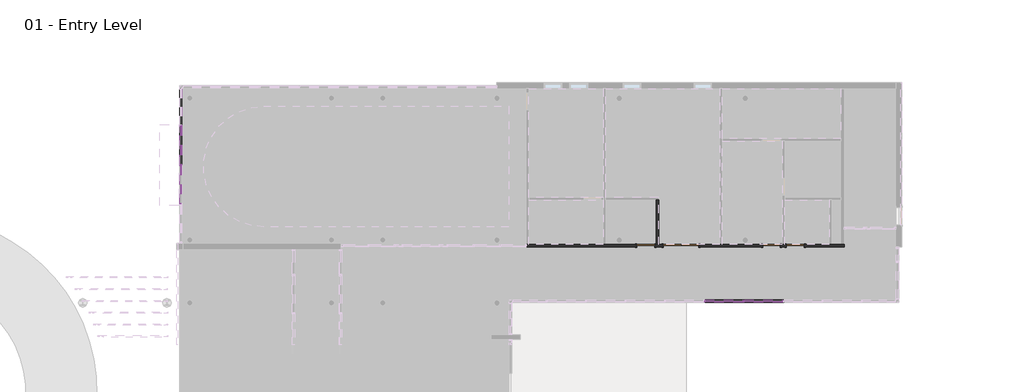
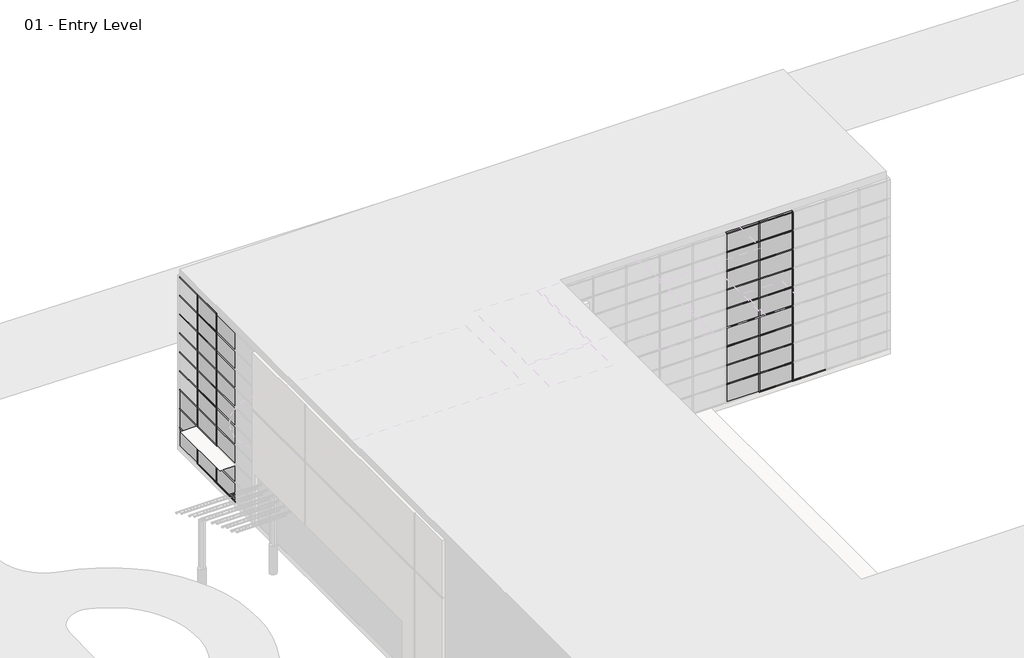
# One storey, part 27 of 34: 76 members, 39 plates, 4 doors, 2 walls.
"""IFC4 building model written with IfcOpenShell, lengths in millimetres."""

from ifc_helpers import new_model, si_unit, origin, origin_with_axes, place, context, project, spatial, polyline, outline, extrude, faceted_brep, transform, mapped, element, save
from components import door_aad9fa6e, door_a1797ceb, door_a3eb833a, member_2b49869a, member_391b434c, member_9e90ae50, member_bdc0ab2a, member_d73967ec, system_panel_glazed_1b9d6098, system_panel_glazed_70da479d, system_panel_glazed_16bdbcd7, system_panel_glazed_acb8865d, system_panel_solid_b376696c, system_panel_solid_77e8b053, system_panel_solid_f3cfc6ec

model = new_model("IFC4")

# Units and contexts
model_context = context("Model", 3, world=origin())
ifc_project = project(units=[si_unit("LENGTHUNIT", "METRE", prefix="MILLI")], contexts=[model_context])

# Site, building, storey
site = spatial("IfcSite", under=ifc_project)
building = spatial("IfcBuilding", under=site)
storey = spatial("IfcBuildingStorey", under=building, Name="01 - Entry Level", Elevation=0.0)

# Doors
placement = place(None, origin())
door_shape = door_aad9fa6e(model_context)
element("IfcDoor", 1, ObjectType="Double-Flush : 72\" x 84\"", at=placement, inside=storey, context=model_context, shape_type="MappedRepresentation", body=[
    mapped(door_shape, transform((25985.1207476, 45608.8, 0.0), x_axis=(-1.0, 0.0, 0.0), y_axis=(0.0, -1.0, 0.0), z_axis=(0.0, 0.0, 1.0))),
])
door_2_shape = door_a1797ceb(model_context)
element("IfcDoor", 2, ObjectType="Single-Flush : 36\" x 84\"", at=placement, inside=storey, context=model_context, shape_type="MappedRepresentation", body=[
    mapped(door_2_shape, transform((30646.0207476, 45608.8, 0.0), x_axis=(1.0, 0.0, 0.0), y_axis=(0.0, 1.0, 0.0), z_axis=(0.0, 0.0, 1.0))),
])
door_3_shape = door_a3eb833a(model_context)
element("IfcDoor", 3, ObjectType="Single-Flush : 36\" x 84\"", at=placement, inside=storey, context=model_context, shape_type="MappedRepresentation", body=[
    mapped(door_3_shape, transform((31865.2207476, 45608.8, 0.0), x_axis=(-1.0, 0.0, 0.0), y_axis=(0.0, -1.0, 0.0), z_axis=(0.0, 0.0, 1.0))),
])
element("IfcDoor", 4, ObjectType="Single-Flush : 36\" x 84\" 20 Minute Rated", at=placement, inside=storey, context=model_context, shape_type="MappedRepresentation", body=[
    mapped(door_2_shape, transform((24156.3207476, 45608.8, 0.0), x_axis=(1.0, 0.0, 0.0), y_axis=(0.0, 1.0, 0.0), z_axis=(0.0, 0.0, 1.0))),
])

# Members
member_shape = member_2b49869a(model_context)
element("IfcMember", 5, ObjectType="Rectangular Mullion : 2.5\" x 5\" rectangular", at=placement, inside=storey, context=model_context, shape_type="MappedRepresentation", body=[
    mapped(member_shape, transform((29198.2207476, 42751.3, 9753.6), x_axis=(1.0, 0.0, 0.0), y_axis=(0.0, -1.0, 0.0), z_axis=(0.0, 0.0, -1.0))),
])
element("IfcMember", 6, ObjectType="Rectangular Mullion : 2.5\" x 5\" rectangular", at=placement, inside=storey, context=model_context, shape_type="MappedRepresentation", body=[
    mapped(member_shape, transform((31230.2207476, 42751.3, 9753.6), x_axis=(1.0, 0.0, 0.0), y_axis=(0.0, -1.0, 0.0), z_axis=(0.0, 0.0, -1.0))),
])
element("IfcMember", 7, ObjectType="Rectangular Mullion : 2.5\" x 5\" rectangular", at=placement, inside=storey, context=model_context, shape_type="MappedRepresentation", body=[
    mapped(member_shape, transform((178.7207476, 51812.75, 9753.6), x_axis=(0.0, -1.0, 0.0), y_axis=(-1.0, 0.0, 0.0), z_axis=(0.0, 0.0, -1.0))),
])
element("IfcMember", 8, ObjectType="Rectangular Mullion : 2.5\" x 5\" rectangular", at=placement, inside=storey, context=model_context, shape_type="MappedRepresentation", body=[
    mapped(member_shape, transform((178.7207476, 49780.75, 9753.6), x_axis=(0.0, -1.0, 0.0), y_axis=(-1.0, 0.0, 0.0), z_axis=(0.0, 0.0, -1.0))),
])
member_2_shape = member_391b434c(model_context)
element("IfcMember", 9, ObjectType="Rectangular Mullion : 2.5\" x 5\" rectangular", at=placement, inside=storey, context=model_context, shape_type="MappedRepresentation", body=[
    mapped(member_2_shape, transform((29166.4707476, 42751.3, 10972.8), x_axis=(0.0, 0.0, 1.0), y_axis=(0.0, -1.0, 0.0), z_axis=(1.0, 0.0, 0.0))),
])
element("IfcMember", 10, ObjectType="Rectangular Mullion : 2.5\" x 5\" rectangular", at=placement, inside=storey, context=model_context, shape_type="MappedRepresentation", body=[
    mapped(member_2_shape, transform((31198.4707476, 42751.3, 10972.8), x_axis=(0.0, 0.0, 1.0), y_axis=(0.0, -1.0, 0.0), z_axis=(1.0, 0.0, 0.0))),
])
element("IfcMember", 11, ObjectType="Rectangular Mullion : 2.5\" x 5\" rectangular", at=placement, inside=storey, context=model_context, shape_type="MappedRepresentation", body=[
    mapped(member_2_shape, transform((178.7207476, 49812.5, 10972.8), x_axis=(0.0, 0.0, 1.0), y_axis=(-1.0, 0.0, 0.0), z_axis=(0.0, -1.0, 0.0))),
])
element("IfcMember", 12, ObjectType="Rectangular Mullion : 2.5\" x 5\" rectangular", at=placement, inside=storey, context=model_context, shape_type="MappedRepresentation", body=[
    mapped(member_2_shape, transform((29229.9707476, 42751.3, 0.0), x_axis=(0.0, 0.0, -1.0), y_axis=(0.0, -1.0, 0.0), z_axis=(-1.0, 0.0, 0.0))),
])
element("IfcMember", 13, ObjectType="Rectangular Mullion : 2.5\" x 5\" rectangular", at=placement, inside=storey, context=model_context, shape_type="MappedRepresentation", body=[
    mapped(member_2_shape, transform((31261.9707476, 42751.3, 0.0), x_axis=(0.0, 0.0, -1.0), y_axis=(0.0, -1.0, 0.0), z_axis=(-1.0, 0.0, 0.0))),
])
element("IfcMember", 14, ObjectType="Rectangular Mullion : 2.5\" x 5\" rectangular", at=placement, inside=storey, context=model_context, shape_type="MappedRepresentation", body=[
    mapped(member_2_shape, transform((178.7207476, 51781.0, 0.0), x_axis=(0.0, 0.0, -1.0), y_axis=(-1.0, 0.0, 0.0), z_axis=(0.0, 1.0, 0.0))),
])
element("IfcMember", 15, ObjectType="Rectangular Mullion : 2.5\" x 5\" rectangular", at=placement, inside=storey, context=model_context, shape_type="MappedRepresentation", body=[
    mapped(member_2_shape, transform((178.7207476, 49749.0, 0.0), x_axis=(0.0, 0.0, -1.0), y_axis=(-1.0, 0.0, 0.0), z_axis=(0.0, 1.0, 0.0))),
])
member_3_shape = member_9e90ae50(model_context)
element("IfcMember", 16, ObjectType="Rectangular Mullion : 2.5\" x 5\" rectangular", at=placement, inside=storey, context=model_context, shape_type="MappedRepresentation", body=[
    mapped(member_3_shape, transform((29166.4707476, 42751.3, 1219.2), x_axis=(0.0, 0.0, 1.0), y_axis=(0.0, -1.0, 0.0), z_axis=(1.0, 0.0, 0.0))),
])
element("IfcMember", 17, ObjectType="Rectangular Mullion : 2.5\" x 5\" rectangular", at=placement, inside=storey, context=model_context, shape_type="MappedRepresentation", body=[
    mapped(member_3_shape, transform((31198.4707476, 42751.3, 1219.2), x_axis=(0.0, 0.0, 1.0), y_axis=(0.0, -1.0, 0.0), z_axis=(1.0, 0.0, 0.0))),
])
element("IfcMember", 18, ObjectType="Rectangular Mullion : 2.5\" x 5\" rectangular", at=placement, inside=storey, context=model_context, shape_type="MappedRepresentation", body=[
    mapped(member_3_shape, transform((29166.4707476, 42751.3, 2438.4), x_axis=(0.0, 0.0, 1.0), y_axis=(0.0, -1.0, 0.0), z_axis=(1.0, 0.0, 0.0))),
])
element("IfcMember", 19, ObjectType="Rectangular Mullion : 2.5\" x 5\" rectangular", at=placement, inside=storey, context=model_context, shape_type="MappedRepresentation", body=[
    mapped(member_3_shape, transform((31198.4707476, 42751.3, 2438.4), x_axis=(0.0, 0.0, 1.0), y_axis=(0.0, -1.0, 0.0), z_axis=(1.0, 0.0, 0.0))),
])
element("IfcMember", 20, ObjectType="Rectangular Mullion : 2.5\" x 5\" rectangular", at=placement, inside=storey, context=model_context, shape_type="MappedRepresentation", body=[
    mapped(member_3_shape, transform((29166.4707476, 42751.3, 3657.6), x_axis=(0.0, 0.0, 1.0), y_axis=(0.0, -1.0, 0.0), z_axis=(1.0, 0.0, 0.0))),
])
element("IfcMember", 21, ObjectType="Rectangular Mullion : 2.5\" x 5\" rectangular", at=placement, inside=storey, context=model_context, shape_type="MappedRepresentation", body=[
    mapped(member_3_shape, transform((31198.4707476, 42751.3, 3657.6), x_axis=(0.0, 0.0, 1.0), y_axis=(0.0, -1.0, 0.0), z_axis=(1.0, 0.0, 0.0))),
])
element("IfcMember", 22, ObjectType="Rectangular Mullion : 2.5\" x 5\" rectangular", at=placement, inside=storey, context=model_context, shape_type="MappedRepresentation", body=[
    mapped(member_3_shape, transform((29166.4707476, 42751.3, 4876.8), x_axis=(0.0, 0.0, 1.0), y_axis=(0.0, -1.0, 0.0), z_axis=(1.0, 0.0, 0.0))),
])
element("IfcMember", 23, ObjectType="Rectangular Mullion : 2.5\" x 5\" rectangular", at=placement, inside=storey, context=model_context, shape_type="MappedRepresentation", body=[
    mapped(member_3_shape, transform((31198.4707476, 42751.3, 4876.8), x_axis=(0.0, 0.0, 1.0), y_axis=(0.0, -1.0, 0.0), z_axis=(1.0, 0.0, 0.0))),
])
element("IfcMember", 24, ObjectType="Rectangular Mullion : 2.5\" x 5\" rectangular", at=placement, inside=storey, context=model_context, shape_type="MappedRepresentation", body=[
    mapped(member_3_shape, transform((29166.4707476, 42751.3, 6096.0), x_axis=(0.0, 0.0, 1.0), y_axis=(0.0, -1.0, 0.0), z_axis=(1.0, 0.0, 0.0))),
])
element("IfcMember", 25, ObjectType="Rectangular Mullion : 2.5\" x 5\" rectangular", at=placement, inside=storey, context=model_context, shape_type="MappedRepresentation", body=[
    mapped(member_3_shape, transform((31198.4707476, 42751.3, 6096.0), x_axis=(0.0, 0.0, 1.0), y_axis=(0.0, -1.0, 0.0), z_axis=(1.0, 0.0, 0.0))),
])
element("IfcMember", 26, ObjectType="Rectangular Mullion : 2.5\" x 5\" rectangular", at=placement, inside=storey, context=model_context, shape_type="MappedRepresentation", body=[
    mapped(member_3_shape, transform((29166.4707476, 42751.3, 7315.2), x_axis=(0.0, 0.0, 1.0), y_axis=(0.0, -1.0, 0.0), z_axis=(1.0, 0.0, 0.0))),
])
element("IfcMember", 27, ObjectType="Rectangular Mullion : 2.5\" x 5\" rectangular", at=placement, inside=storey, context=model_context, shape_type="MappedRepresentation", body=[
    mapped(member_3_shape, transform((31198.4707476, 42751.3, 7315.2), x_axis=(0.0, 0.0, 1.0), y_axis=(0.0, -1.0, 0.0), z_axis=(1.0, 0.0, 0.0))),
])
element("IfcMember", 28, ObjectType="Rectangular Mullion : 2.5\" x 5\" rectangular", at=placement, inside=storey, context=model_context, shape_type="MappedRepresentation", body=[
    mapped(member_3_shape, transform((29166.4707476, 42751.3, 8534.4), x_axis=(0.0, 0.0, 1.0), y_axis=(0.0, -1.0, 0.0), z_axis=(1.0, 0.0, 0.0))),
])
element("IfcMember", 29, ObjectType="Rectangular Mullion : 2.5\" x 5\" rectangular", at=placement, inside=storey, context=model_context, shape_type="MappedRepresentation", body=[
    mapped(member_3_shape, transform((31198.4707476, 42751.3, 8534.4), x_axis=(0.0, 0.0, 1.0), y_axis=(0.0, -1.0, 0.0), z_axis=(1.0, 0.0, 0.0))),
])
element("IfcMember", 30, ObjectType="Rectangular Mullion : 2.5\" x 5\" rectangular", at=placement, inside=storey, context=model_context, shape_type="MappedRepresentation", body=[
    mapped(member_3_shape, transform((29166.4707476, 42751.3, 9753.6), x_axis=(0.0, 0.0, 1.0), y_axis=(0.0, -1.0, 0.0), z_axis=(1.0, 0.0, 0.0))),
])
element("IfcMember", 31, ObjectType="Rectangular Mullion : 2.5\" x 5\" rectangular", at=placement, inside=storey, context=model_context, shape_type="MappedRepresentation", body=[
    mapped(member_3_shape, transform((31198.4707476, 42751.3, 9753.6), x_axis=(0.0, 0.0, 1.0), y_axis=(0.0, -1.0, 0.0), z_axis=(1.0, 0.0, 0.0))),
])
element("IfcMember", 32, ObjectType="Rectangular Mullion : 2.5\" x 5\" rectangular", at=placement, inside=storey, context=model_context, shape_type="MappedRepresentation", body=[
    mapped(member_3_shape, transform((178.7207476, 49812.5, 1219.2), x_axis=(0.0, 0.0, 1.0), y_axis=(-1.0, 0.0, 0.0), z_axis=(0.0, -1.0, 0.0))),
])
element("IfcMember", 33, ObjectType="Rectangular Mullion : 2.5\" x 5\" rectangular", at=placement, inside=storey, context=model_context, shape_type="MappedRepresentation", body=[
    mapped(member_3_shape, transform((178.7207476, 49812.5, 2438.4), x_axis=(0.0, 0.0, 1.0), y_axis=(-1.0, 0.0, 0.0), z_axis=(0.0, -1.0, 0.0))),
])
element("IfcMember", 34, ObjectType="Rectangular Mullion : 2.5\" x 5\" rectangular", at=placement, inside=storey, context=model_context, shape_type="MappedRepresentation", body=[
    mapped(member_3_shape, transform((178.7207476, 49812.5, 3657.6), x_axis=(0.0, 0.0, 1.0), y_axis=(-1.0, 0.0, 0.0), z_axis=(0.0, -1.0, 0.0))),
])
element("IfcMember", 35, ObjectType="Rectangular Mullion : 2.5\" x 5\" rectangular", at=placement, inside=storey, context=model_context, shape_type="MappedRepresentation", body=[
    mapped(member_3_shape, transform((178.7207476, 49812.5, 4876.8), x_axis=(0.0, 0.0, 1.0), y_axis=(-1.0, 0.0, 0.0), z_axis=(0.0, -1.0, 0.0))),
])
element("IfcMember", 36, ObjectType="Rectangular Mullion : 2.5\" x 5\" rectangular", at=placement, inside=storey, context=model_context, shape_type="MappedRepresentation", body=[
    mapped(member_3_shape, transform((178.7207476, 49812.5, 6096.0), x_axis=(0.0, 0.0, 1.0), y_axis=(-1.0, 0.0, 0.0), z_axis=(0.0, -1.0, 0.0))),
])
element("IfcMember", 37, ObjectType="Rectangular Mullion : 2.5\" x 5\" rectangular", at=placement, inside=storey, context=model_context, shape_type="MappedRepresentation", body=[
    mapped(member_3_shape, transform((178.7207476, 49812.5, 7315.2), x_axis=(0.0, 0.0, 1.0), y_axis=(-1.0, 0.0, 0.0), z_axis=(0.0, -1.0, 0.0))),
])
element("IfcMember", 38, ObjectType="Rectangular Mullion : 2.5\" x 5\" rectangular", at=placement, inside=storey, context=model_context, shape_type="MappedRepresentation", body=[
    mapped(member_3_shape, transform((178.7207476, 49812.5, 8534.4), x_axis=(0.0, 0.0, 1.0), y_axis=(-1.0, 0.0, 0.0), z_axis=(0.0, -1.0, 0.0))),
])
element("IfcMember", 39, ObjectType="Rectangular Mullion : 2.5\" x 5\" rectangular", at=placement, inside=storey, context=model_context, shape_type="MappedRepresentation", body=[
    mapped(member_3_shape, transform((178.7207476, 49812.5, 9753.6), x_axis=(0.0, 0.0, 1.0), y_axis=(-1.0, 0.0, 0.0), z_axis=(0.0, -1.0, 0.0))),
])
element("IfcMember", 40, ObjectType="Rectangular Mullion : 2.5\" x 5\" rectangular", at=placement, inside=storey, context=model_context, shape_type="MappedRepresentation", body=[
    mapped(member_shape, transform((29198.2207476, 42751.3, 0.0), x_axis=(1.0, 0.0, 0.0), y_axis=(0.0, -1.0, 0.0), z_axis=(0.0, 0.0, -1.0))),
])
element("IfcMember", 41, ObjectType="Rectangular Mullion : 2.5\" x 5\" rectangular", at=placement, inside=storey, context=model_context, shape_type="MappedRepresentation", body=[
    mapped(member_shape, transform((31230.2207476, 42751.3, 0.0), x_axis=(1.0, 0.0, 0.0), y_axis=(0.0, -1.0, 0.0), z_axis=(0.0, 0.0, -1.0))),
])
element("IfcMember", 42, ObjectType="Rectangular Mullion : 2.5\" x 5\" rectangular", at=placement, inside=storey, context=model_context, shape_type="MappedRepresentation", body=[
    mapped(member_shape, transform((178.7207476, 51812.75, 0.0), x_axis=(0.0, -1.0, 0.0), y_axis=(-1.0, 0.0, 0.0), z_axis=(0.0, 0.0, -1.0))),
])
element("IfcMember", 43, ObjectType="Rectangular Mullion : 2.5\" x 5\" rectangular", at=placement, inside=storey, context=model_context, shape_type="MappedRepresentation", body=[
    mapped(member_shape, transform((178.7207476, 49780.75, 0.0), x_axis=(0.0, -1.0, 0.0), y_axis=(-1.0, 0.0, 0.0), z_axis=(0.0, 0.0, -1.0))),
])
element("IfcMember", 44, ObjectType="Rectangular Mullion : 2.5\" x 5\" rectangular", at=placement, inside=storey, context=model_context, shape_type="MappedRepresentation", body=[
    mapped(member_shape, transform((29198.2207476, 42751.3, 1219.2), x_axis=(1.0, 0.0, 0.0), y_axis=(0.0, -1.0, 0.0), z_axis=(0.0, 0.0, -1.0))),
])
element("IfcMember", 45, ObjectType="Rectangular Mullion : 2.5\" x 5\" rectangular", at=placement, inside=storey, context=model_context, shape_type="MappedRepresentation", body=[
    mapped(member_shape, transform((31230.2207476, 42751.3, 1219.2), x_axis=(1.0, 0.0, 0.0), y_axis=(0.0, -1.0, 0.0), z_axis=(0.0, 0.0, -1.0))),
])
element("IfcMember", 46, ObjectType="Rectangular Mullion : 2.5\" x 5\" rectangular", at=placement, inside=storey, context=model_context, shape_type="MappedRepresentation", body=[
    mapped(member_shape, transform((29198.2207476, 42751.3, 2438.4), x_axis=(1.0, 0.0, 0.0), y_axis=(0.0, -1.0, 0.0), z_axis=(0.0, 0.0, -1.0))),
])
element("IfcMember", 47, ObjectType="Rectangular Mullion : 2.5\" x 5\" rectangular", at=placement, inside=storey, context=model_context, shape_type="MappedRepresentation", body=[
    mapped(member_shape, transform((31230.2207476, 42751.3, 2438.4), x_axis=(1.0, 0.0, 0.0), y_axis=(0.0, -1.0, 0.0), z_axis=(0.0, 0.0, -1.0))),
])
element("IfcMember", 48, ObjectType="Rectangular Mullion : 2.5\" x 5\" rectangular", at=placement, inside=storey, context=model_context, shape_type="MappedRepresentation", body=[
    mapped(member_shape, transform((29198.2207476, 42751.3, 3657.6), x_axis=(1.0, 0.0, 0.0), y_axis=(0.0, -1.0, 0.0), z_axis=(0.0, 0.0, -1.0))),
])
element("IfcMember", 49, ObjectType="Rectangular Mullion : 2.5\" x 5\" rectangular", at=placement, inside=storey, context=model_context, shape_type="MappedRepresentation", body=[
    mapped(member_shape, transform((31230.2207476, 42751.3, 3657.6), x_axis=(1.0, 0.0, 0.0), y_axis=(0.0, -1.0, 0.0), z_axis=(0.0, 0.0, -1.0))),
])
element("IfcMember", 50, ObjectType="Rectangular Mullion : 2.5\" x 5\" rectangular", at=placement, inside=storey, context=model_context, shape_type="MappedRepresentation", body=[
    mapped(member_shape, transform((29198.2207476, 42751.3, 4876.8), x_axis=(1.0, 0.0, 0.0), y_axis=(0.0, -1.0, 0.0), z_axis=(0.0, 0.0, -1.0))),
])
element("IfcMember", 51, ObjectType="Rectangular Mullion : 2.5\" x 5\" rectangular", at=placement, inside=storey, context=model_context, shape_type="MappedRepresentation", body=[
    mapped(member_shape, transform((31230.2207476, 42751.3, 4876.8), x_axis=(1.0, 0.0, 0.0), y_axis=(0.0, -1.0, 0.0), z_axis=(0.0, 0.0, -1.0))),
])
element("IfcMember", 52, ObjectType="Rectangular Mullion : 2.5\" x 5\" rectangular", at=placement, inside=storey, context=model_context, shape_type="MappedRepresentation", body=[
    mapped(member_shape, transform((29198.2207476, 42751.3, 6096.0), x_axis=(1.0, 0.0, 0.0), y_axis=(0.0, -1.0, 0.0), z_axis=(0.0, 0.0, -1.0))),
])
element("IfcMember", 53, ObjectType="Rectangular Mullion : 2.5\" x 5\" rectangular", at=placement, inside=storey, context=model_context, shape_type="MappedRepresentation", body=[
    mapped(member_shape, transform((31230.2207476, 42751.3, 6096.0), x_axis=(1.0, 0.0, 0.0), y_axis=(0.0, -1.0, 0.0), z_axis=(0.0, 0.0, -1.0))),
])
element("IfcMember", 54, ObjectType="Rectangular Mullion : 2.5\" x 5\" rectangular", at=placement, inside=storey, context=model_context, shape_type="MappedRepresentation", body=[
    mapped(member_shape, transform((29198.2207476, 42751.3, 7315.2), x_axis=(1.0, 0.0, 0.0), y_axis=(0.0, -1.0, 0.0), z_axis=(0.0, 0.0, -1.0))),
])
element("IfcMember", 55, ObjectType="Rectangular Mullion : 2.5\" x 5\" rectangular", at=placement, inside=storey, context=model_context, shape_type="MappedRepresentation", body=[
    mapped(member_shape, transform((31230.2207476, 42751.3, 7315.2), x_axis=(1.0, 0.0, 0.0), y_axis=(0.0, -1.0, 0.0), z_axis=(0.0, 0.0, -1.0))),
])
element("IfcMember", 56, ObjectType="Rectangular Mullion : 2.5\" x 5\" rectangular", at=placement, inside=storey, context=model_context, shape_type="MappedRepresentation", body=[
    mapped(member_shape, transform((29198.2207476, 42751.3, 8534.4), x_axis=(1.0, 0.0, 0.0), y_axis=(0.0, -1.0, 0.0), z_axis=(0.0, 0.0, -1.0))),
])
element("IfcMember", 57, ObjectType="Rectangular Mullion : 2.5\" x 5\" rectangular", at=placement, inside=storey, context=model_context, shape_type="MappedRepresentation", body=[
    mapped(member_shape, transform((31230.2207476, 42751.3, 8534.4), x_axis=(1.0, 0.0, 0.0), y_axis=(0.0, -1.0, 0.0), z_axis=(0.0, 0.0, -1.0))),
])
element("IfcMember", 58, ObjectType="Rectangular Mullion : 2.5\" x 5\" rectangular", at=placement, inside=storey, context=model_context, shape_type="MappedRepresentation", body=[
    mapped(member_shape, transform((178.7207476, 51812.75, 1219.2), x_axis=(0.0, -1.0, 0.0), y_axis=(-1.0, 0.0, 0.0), z_axis=(0.0, 0.0, -1.0))),
])
element("IfcMember", 59, ObjectType="Rectangular Mullion : 2.5\" x 5\" rectangular", at=placement, inside=storey, context=model_context, shape_type="MappedRepresentation", body=[
    mapped(member_shape, transform((178.7207476, 49780.75, 1219.2), x_axis=(0.0, -1.0, 0.0), y_axis=(-1.0, 0.0, 0.0), z_axis=(0.0, 0.0, -1.0))),
])
element("IfcMember", 60, ObjectType="Rectangular Mullion : 2.5\" x 5\" rectangular", at=placement, inside=storey, context=model_context, shape_type="MappedRepresentation", body=[
    mapped(member_shape, transform((178.7207476, 51812.75, 2438.4), x_axis=(0.0, -1.0, 0.0), y_axis=(-1.0, 0.0, 0.0), z_axis=(0.0, 0.0, -1.0))),
])
element("IfcMember", 61, ObjectType="Rectangular Mullion : 2.5\" x 5\" rectangular", at=placement, inside=storey, context=model_context, shape_type="MappedRepresentation", body=[
    mapped(member_shape, transform((178.7207476, 49780.75, 2438.4), x_axis=(0.0, -1.0, 0.0), y_axis=(-1.0, 0.0, 0.0), z_axis=(0.0, 0.0, -1.0))),
])
element("IfcMember", 62, ObjectType="Rectangular Mullion : 2.5\" x 5\" rectangular", at=placement, inside=storey, context=model_context, shape_type="MappedRepresentation", body=[
    mapped(member_shape, transform((178.7207476, 51812.75, 3657.6), x_axis=(0.0, -1.0, 0.0), y_axis=(-1.0, 0.0, 0.0), z_axis=(0.0, 0.0, -1.0))),
])
element("IfcMember", 63, ObjectType="Rectangular Mullion : 2.5\" x 5\" rectangular", at=placement, inside=storey, context=model_context, shape_type="MappedRepresentation", body=[
    mapped(member_shape, transform((178.7207476, 49780.75, 3657.6), x_axis=(0.0, -1.0, 0.0), y_axis=(-1.0, 0.0, 0.0), z_axis=(0.0, 0.0, -1.0))),
])
element("IfcMember", 64, ObjectType="Rectangular Mullion : 2.5\" x 5\" rectangular", at=placement, inside=storey, context=model_context, shape_type="MappedRepresentation", body=[
    mapped(member_shape, transform((178.7207476, 51812.75, 4876.8), x_axis=(0.0, -1.0, 0.0), y_axis=(-1.0, 0.0, 0.0), z_axis=(0.0, 0.0, -1.0))),
])
element("IfcMember", 65, ObjectType="Rectangular Mullion : 2.5\" x 5\" rectangular", at=placement, inside=storey, context=model_context, shape_type="MappedRepresentation", body=[
    mapped(member_shape, transform((178.7207476, 49780.75, 4876.8), x_axis=(0.0, -1.0, 0.0), y_axis=(-1.0, 0.0, 0.0), z_axis=(0.0, 0.0, -1.0))),
])
element("IfcMember", 66, ObjectType="Rectangular Mullion : 2.5\" x 5\" rectangular", at=placement, inside=storey, context=model_context, shape_type="MappedRepresentation", body=[
    mapped(member_shape, transform((178.7207476, 51812.75, 6096.0), x_axis=(0.0, -1.0, 0.0), y_axis=(-1.0, 0.0, 0.0), z_axis=(0.0, 0.0, -1.0))),
])
element("IfcMember", 67, ObjectType="Rectangular Mullion : 2.5\" x 5\" rectangular", at=placement, inside=storey, context=model_context, shape_type="MappedRepresentation", body=[
    mapped(member_shape, transform((178.7207476, 49780.75, 6096.0), x_axis=(0.0, -1.0, 0.0), y_axis=(-1.0, 0.0, 0.0), z_axis=(0.0, 0.0, -1.0))),
])
element("IfcMember", 68, ObjectType="Rectangular Mullion : 2.5\" x 5\" rectangular", at=placement, inside=storey, context=model_context, shape_type="MappedRepresentation", body=[
    mapped(member_shape, transform((178.7207476, 51812.75, 7315.2), x_axis=(0.0, -1.0, 0.0), y_axis=(-1.0, 0.0, 0.0), z_axis=(0.0, 0.0, -1.0))),
])
element("IfcMember", 69, ObjectType="Rectangular Mullion : 2.5\" x 5\" rectangular", at=placement, inside=storey, context=model_context, shape_type="MappedRepresentation", body=[
    mapped(member_shape, transform((178.7207476, 49780.75, 7315.2), x_axis=(0.0, -1.0, 0.0), y_axis=(-1.0, 0.0, 0.0), z_axis=(0.0, 0.0, -1.0))),
])
element("IfcMember", 70, ObjectType="Rectangular Mullion : 2.5\" x 5\" rectangular", at=placement, inside=storey, context=model_context, shape_type="MappedRepresentation", body=[
    mapped(member_shape, transform((178.7207476, 51812.75, 8534.4), x_axis=(0.0, -1.0, 0.0), y_axis=(-1.0, 0.0, 0.0), z_axis=(0.0, 0.0, -1.0))),
])
element("IfcMember", 71, ObjectType="Rectangular Mullion : 2.5\" x 5\" rectangular", at=placement, inside=storey, context=model_context, shape_type="MappedRepresentation", body=[
    mapped(member_shape, transform((178.7207476, 49780.75, 8534.4), x_axis=(0.0, -1.0, 0.0), y_axis=(-1.0, 0.0, 0.0), z_axis=(0.0, 0.0, -1.0))),
])
member_4_shape = member_bdc0ab2a(model_context)
element("IfcMember", 72, ObjectType="Rectangular Mullion : 2.5\" x 5\" rectangular", at=placement, inside=storey, context=model_context, shape_type="MappedRepresentation", body=[
    mapped(member_4_shape, transform((178.7207476, 51844.5, 10972.8), x_axis=(0.0, 0.0, 1.0), y_axis=(-1.0, 0.0, 0.0), z_axis=(0.0, -1.0, 0.0))),
])
member_5_shape = member_d73967ec(model_context)
element("IfcMember", 73, ObjectType="Rectangular Mullion : 2.5\" x 5\" rectangular", at=placement, inside=storey, context=model_context, shape_type="MappedRepresentation", body=[
    mapped(member_5_shape, transform((178.7207476, 51844.5, 1219.2), x_axis=(0.0, 0.0, 1.0), y_axis=(-1.0, 0.0, 0.0), z_axis=(0.0, -1.0, 0.0))),
])
element("IfcMember", 74, ObjectType="Rectangular Mullion : 2.5\" x 5\" rectangular", at=placement, inside=storey, context=model_context, shape_type="MappedRepresentation", body=[
    mapped(member_5_shape, transform((178.7207476, 51844.5, 2438.4), x_axis=(0.0, 0.0, 1.0), y_axis=(-1.0, 0.0, 0.0), z_axis=(0.0, -1.0, 0.0))),
])
element("IfcMember", 75, ObjectType="Rectangular Mullion : 2.5\" x 5\" rectangular", at=placement, inside=storey, context=model_context, shape_type="MappedRepresentation", body=[
    mapped(member_5_shape, transform((178.7207476, 51844.5, 3657.6), x_axis=(0.0, 0.0, 1.0), y_axis=(-1.0, 0.0, 0.0), z_axis=(0.0, -1.0, 0.0))),
])
element("IfcMember", 76, ObjectType="Rectangular Mullion : 2.5\" x 5\" rectangular", at=placement, inside=storey, context=model_context, shape_type="MappedRepresentation", body=[
    mapped(member_5_shape, transform((178.7207476, 51844.5, 4876.8), x_axis=(0.0, 0.0, 1.0), y_axis=(-1.0, 0.0, 0.0), z_axis=(0.0, -1.0, 0.0))),
])
element("IfcMember", 77, ObjectType="Rectangular Mullion : 2.5\" x 5\" rectangular", at=placement, inside=storey, context=model_context, shape_type="MappedRepresentation", body=[
    mapped(member_5_shape, transform((178.7207476, 51844.5, 6096.0), x_axis=(0.0, 0.0, 1.0), y_axis=(-1.0, 0.0, 0.0), z_axis=(0.0, -1.0, 0.0))),
])
element("IfcMember", 78, ObjectType="Rectangular Mullion : 2.5\" x 5\" rectangular", at=placement, inside=storey, context=model_context, shape_type="MappedRepresentation", body=[
    mapped(member_5_shape, transform((178.7207476, 51844.5, 7315.2), x_axis=(0.0, 0.0, 1.0), y_axis=(-1.0, 0.0, 0.0), z_axis=(0.0, -1.0, 0.0))),
])
element("IfcMember", 79, ObjectType="Rectangular Mullion : 2.5\" x 5\" rectangular", at=placement, inside=storey, context=model_context, shape_type="MappedRepresentation", body=[
    mapped(member_5_shape, transform((178.7207476, 51844.5, 8534.4), x_axis=(0.0, 0.0, 1.0), y_axis=(-1.0, 0.0, 0.0), z_axis=(0.0, -1.0, 0.0))),
])
element("IfcMember", 80, ObjectType="Rectangular Mullion : 2.5\" x 5\" rectangular", at=placement, inside=storey, context=model_context, shape_type="MappedRepresentation", body=[
    mapped(member_5_shape, transform((178.7207476, 51844.5, 9753.6), x_axis=(0.0, 0.0, 1.0), y_axis=(-1.0, 0.0, 0.0), z_axis=(0.0, -1.0, 0.0))),
])

# Plates
system_panel_glazed_shape = system_panel_glazed_1b9d6098(model_context)
element("IfcPlate", 81, ObjectType="System Panel : Glazed", at=placement, inside=storey, context=model_context, shape_type="MappedRepresentation", body=[
    mapped(system_panel_glazed_shape, transform((28182.2207476, 42751.3, 63.5), x_axis=(1.0, 0.0, 0.0), y_axis=(0.0, 1.0, 0.0), z_axis=(0.0, 0.0, 1.0))),
])
element("IfcPlate", 82, ObjectType="System Panel : Glazed", at=placement, inside=storey, context=model_context, shape_type="MappedRepresentation", body=[
    mapped(system_panel_glazed_shape, transform((30214.2207476, 42751.3, 63.5), x_axis=(1.0, 0.0, 0.0), y_axis=(0.0, 1.0, 0.0), z_axis=(0.0, 0.0, 1.0))),
])
element("IfcPlate", 83, ObjectType="System Panel : Glazed", at=placement, inside=storey, context=model_context, shape_type="MappedRepresentation", body=[
    mapped(system_panel_glazed_shape, transform((28182.2207476, 42751.3, 9785.35), x_axis=(1.0, 0.0, 0.0), y_axis=(0.0, 1.0, 0.0), z_axis=(0.0, 0.0, 1.0))),
])
element("IfcPlate", 84, ObjectType="System Panel : Glazed", at=placement, inside=storey, context=model_context, shape_type="MappedRepresentation", body=[
    mapped(system_panel_glazed_shape, transform((30214.2207476, 42751.3, 9785.35), x_axis=(1.0, 0.0, 0.0), y_axis=(0.0, 1.0, 0.0), z_axis=(0.0, 0.0, 1.0))),
])
element("IfcPlate", 85, ObjectType="System Panel : Glazed", at=placement, inside=storey, context=model_context, shape_type="MappedRepresentation", body=[
    mapped(system_panel_glazed_shape, transform((178.7207476, 50796.75, 63.5), x_axis=(0.0, -1.0, 0.0), y_axis=(1.0, 0.0, 0.0), z_axis=(0.0, 0.0, 1.0))),
])
element("IfcPlate", 86, ObjectType="System Panel : Glazed", at=placement, inside=storey, context=model_context, shape_type="MappedRepresentation", body=[
    mapped(system_panel_glazed_shape, transform((178.7207476, 48764.75, 63.5), x_axis=(0.0, -1.0, 0.0), y_axis=(1.0, 0.0, 0.0), z_axis=(0.0, 0.0, 1.0))),
])
system_panel_glazed_2_shape = system_panel_glazed_70da479d(model_context)
element("IfcPlate", 87, ObjectType="System Panel : Glazed", at=placement, inside=storey, context=model_context, shape_type="MappedRepresentation", body=[
    mapped(system_panel_glazed_2_shape, transform((28182.2207476, 42751.3, 1250.95), x_axis=(1.0, 0.0, 0.0), y_axis=(0.0, 1.0, 0.0), z_axis=(0.0, 0.0, 1.0))),
])
element("IfcPlate", 88, ObjectType="System Panel : Glazed", at=placement, inside=storey, context=model_context, shape_type="MappedRepresentation", body=[
    mapped(system_panel_glazed_2_shape, transform((30214.2207476, 42751.3, 1250.95), x_axis=(1.0, 0.0, 0.0), y_axis=(0.0, 1.0, 0.0), z_axis=(0.0, 0.0, 1.0))),
])
element("IfcPlate", 89, ObjectType="System Panel : Glazed", at=placement, inside=storey, context=model_context, shape_type="MappedRepresentation", body=[
    mapped(system_panel_glazed_2_shape, transform((28182.2207476, 42751.3, 2470.15), x_axis=(1.0, 0.0, 0.0), y_axis=(0.0, 1.0, 0.0), z_axis=(0.0, 0.0, 1.0))),
])
element("IfcPlate", 90, ObjectType="System Panel : Glazed", at=placement, inside=storey, context=model_context, shape_type="MappedRepresentation", body=[
    mapped(system_panel_glazed_2_shape, transform((30214.2207476, 42751.3, 2470.15), x_axis=(1.0, 0.0, 0.0), y_axis=(0.0, 1.0, 0.0), z_axis=(0.0, 0.0, 1.0))),
])
element("IfcPlate", 91, ObjectType="System Panel : Glazed", at=placement, inside=storey, context=model_context, shape_type="MappedRepresentation", body=[
    mapped(system_panel_glazed_2_shape, transform((28182.2207476, 42751.3, 3689.35), x_axis=(1.0, 0.0, 0.0), y_axis=(0.0, 1.0, 0.0), z_axis=(0.0, 0.0, 1.0))),
])
element("IfcPlate", 92, ObjectType="System Panel : Glazed", at=placement, inside=storey, context=model_context, shape_type="MappedRepresentation", body=[
    mapped(system_panel_glazed_2_shape, transform((30214.2207476, 42751.3, 3689.35), x_axis=(1.0, 0.0, 0.0), y_axis=(0.0, 1.0, 0.0), z_axis=(0.0, 0.0, 1.0))),
])
element("IfcPlate", 93, ObjectType="System Panel : Glazed", at=placement, inside=storey, context=model_context, shape_type="MappedRepresentation", body=[
    mapped(system_panel_glazed_2_shape, transform((28182.2207476, 42751.3, 4908.55), x_axis=(1.0, 0.0, 0.0), y_axis=(0.0, 1.0, 0.0), z_axis=(0.0, 0.0, 1.0))),
])
element("IfcPlate", 94, ObjectType="System Panel : Glazed", at=placement, inside=storey, context=model_context, shape_type="MappedRepresentation", body=[
    mapped(system_panel_glazed_2_shape, transform((30214.2207476, 42751.3, 4908.55), x_axis=(1.0, 0.0, 0.0), y_axis=(0.0, 1.0, 0.0), z_axis=(0.0, 0.0, 1.0))),
])
element("IfcPlate", 95, ObjectType="System Panel : Glazed", at=placement, inside=storey, context=model_context, shape_type="MappedRepresentation", body=[
    mapped(system_panel_glazed_2_shape, transform((28182.2207476, 42751.3, 6127.75), x_axis=(1.0, 0.0, 0.0), y_axis=(0.0, 1.0, 0.0), z_axis=(0.0, 0.0, 1.0))),
])
element("IfcPlate", 96, ObjectType="System Panel : Glazed", at=placement, inside=storey, context=model_context, shape_type="MappedRepresentation", body=[
    mapped(system_panel_glazed_2_shape, transform((30214.2207476, 42751.3, 6127.75), x_axis=(1.0, 0.0, 0.0), y_axis=(0.0, 1.0, 0.0), z_axis=(0.0, 0.0, 1.0))),
])
element("IfcPlate", 97, ObjectType="System Panel : Glazed", at=placement, inside=storey, context=model_context, shape_type="MappedRepresentation", body=[
    mapped(system_panel_glazed_2_shape, transform((28182.2207476, 42751.3, 7346.95), x_axis=(1.0, 0.0, 0.0), y_axis=(0.0, 1.0, 0.0), z_axis=(0.0, 0.0, 1.0))),
])
element("IfcPlate", 98, ObjectType="System Panel : Glazed", at=placement, inside=storey, context=model_context, shape_type="MappedRepresentation", body=[
    mapped(system_panel_glazed_2_shape, transform((30214.2207476, 42751.3, 7346.95), x_axis=(1.0, 0.0, 0.0), y_axis=(0.0, 1.0, 0.0), z_axis=(0.0, 0.0, 1.0))),
])
element("IfcPlate", 99, ObjectType="System Panel : Glazed", at=placement, inside=storey, context=model_context, shape_type="MappedRepresentation", body=[
    mapped(system_panel_glazed_2_shape, transform((28182.2207476, 42751.3, 8566.15), x_axis=(1.0, 0.0, 0.0), y_axis=(0.0, 1.0, 0.0), z_axis=(0.0, 0.0, 1.0))),
])
element("IfcPlate", 100, ObjectType="System Panel : Glazed", at=placement, inside=storey, context=model_context, shape_type="MappedRepresentation", body=[
    mapped(system_panel_glazed_2_shape, transform((30214.2207476, 42751.3, 8566.15), x_axis=(1.0, 0.0, 0.0), y_axis=(0.0, 1.0, 0.0), z_axis=(0.0, 0.0, 1.0))),
])
element("IfcPlate", 101, ObjectType="System Panel : Glazed", at=placement, inside=storey, context=model_context, shape_type="MappedRepresentation", body=[
    mapped(system_panel_glazed_2_shape, transform((178.7207476, 50796.75, 1250.95), x_axis=(0.0, -1.0, 0.0), y_axis=(1.0, 0.0, 0.0), z_axis=(0.0, 0.0, 1.0))),
])
element("IfcPlate", 102, ObjectType="System Panel : Glazed", at=placement, inside=storey, context=model_context, shape_type="MappedRepresentation", body=[
    mapped(system_panel_glazed_2_shape, transform((178.7207476, 48764.75, 1250.95), x_axis=(0.0, -1.0, 0.0), y_axis=(1.0, 0.0, 0.0), z_axis=(0.0, 0.0, 1.0))),
])
element("IfcPlate", 103, ObjectType="System Panel : Glazed", at=placement, inside=storey, context=model_context, shape_type="MappedRepresentation", body=[
    mapped(system_panel_glazed_2_shape, transform((178.7207476, 50796.75, 3689.35), x_axis=(0.0, -1.0, 0.0), y_axis=(1.0, 0.0, 0.0), z_axis=(0.0, 0.0, 1.0))),
])
element("IfcPlate", 104, ObjectType="System Panel : Glazed", at=placement, inside=storey, context=model_context, shape_type="MappedRepresentation", body=[
    mapped(system_panel_glazed_2_shape, transform((178.7207476, 48764.75, 3689.35), x_axis=(0.0, -1.0, 0.0), y_axis=(1.0, 0.0, 0.0), z_axis=(0.0, 0.0, 1.0))),
])
element("IfcPlate", 105, ObjectType="System Panel : Glazed", at=placement, inside=storey, context=model_context, shape_type="MappedRepresentation", body=[
    mapped(system_panel_glazed_2_shape, transform((178.7207476, 50796.75, 4908.55), x_axis=(0.0, -1.0, 0.0), y_axis=(1.0, 0.0, 0.0), z_axis=(0.0, 0.0, 1.0))),
])
element("IfcPlate", 106, ObjectType="System Panel : Glazed", at=placement, inside=storey, context=model_context, shape_type="MappedRepresentation", body=[
    mapped(system_panel_glazed_2_shape, transform((178.7207476, 48764.75, 4908.55), x_axis=(0.0, -1.0, 0.0), y_axis=(1.0, 0.0, 0.0), z_axis=(0.0, 0.0, 1.0))),
])
element("IfcPlate", 107, ObjectType="System Panel : Glazed", at=placement, inside=storey, context=model_context, shape_type="MappedRepresentation", body=[
    mapped(system_panel_glazed_2_shape, transform((178.7207476, 50796.75, 7346.95), x_axis=(0.0, -1.0, 0.0), y_axis=(1.0, 0.0, 0.0), z_axis=(0.0, 0.0, 1.0))),
])
element("IfcPlate", 108, ObjectType="System Panel : Glazed", at=placement, inside=storey, context=model_context, shape_type="MappedRepresentation", body=[
    mapped(system_panel_glazed_2_shape, transform((178.7207476, 48764.75, 7346.95), x_axis=(0.0, -1.0, 0.0), y_axis=(1.0, 0.0, 0.0), z_axis=(0.0, 0.0, 1.0))),
])
element("IfcPlate", 109, ObjectType="System Panel : Glazed", at=placement, inside=storey, context=model_context, shape_type="MappedRepresentation", body=[
    mapped(system_panel_glazed_2_shape, transform((178.7207476, 50796.75, 8566.15), x_axis=(0.0, -1.0, 0.0), y_axis=(1.0, 0.0, 0.0), z_axis=(0.0, 0.0, 1.0))),
])
element("IfcPlate", 110, ObjectType="System Panel : Glazed", at=placement, inside=storey, context=model_context, shape_type="MappedRepresentation", body=[
    mapped(system_panel_glazed_2_shape, transform((178.7207476, 48764.75, 8566.15), x_axis=(0.0, -1.0, 0.0), y_axis=(1.0, 0.0, 0.0), z_axis=(0.0, 0.0, 1.0))),
])
system_panel_glazed_3_shape = system_panel_glazed_16bdbcd7(model_context)
element("IfcPlate", 111, ObjectType="System Panel : Glazed", at=placement, inside=storey, context=model_context, shape_type="MappedRepresentation", body=[
    mapped(system_panel_glazed_3_shape, transform((178.7207476, 52771.6, 63.5), x_axis=(0.0, -1.0, 0.0), y_axis=(1.0, 0.0, 0.0), z_axis=(0.0, 0.0, 1.0))),
])
system_panel_glazed_4_shape = system_panel_glazed_acb8865d(model_context)
element("IfcPlate", 112, ObjectType="System Panel : Glazed", at=placement, inside=storey, context=model_context, shape_type="MappedRepresentation", body=[
    mapped(system_panel_glazed_4_shape, transform((178.7207476, 52771.6, 1250.95), x_axis=(0.0, -1.0, 0.0), y_axis=(1.0, 0.0, 0.0), z_axis=(0.0, 0.0, 1.0))),
])
system_panel_solid_shape = system_panel_solid_b376696c(model_context)
element("IfcPlate", 113, ObjectType="System Panel : Solid", at=placement, inside=storey, context=model_context, shape_type="MappedRepresentation", body=[
    mapped(system_panel_solid_shape, transform((178.7207476, 50796.75, 9785.35), x_axis=(0.0, -1.0, 0.0), y_axis=(1.0, 0.0, 0.0), z_axis=(0.0, 0.0, 1.0))),
])
element("IfcPlate", 114, ObjectType="System Panel : Solid", at=placement, inside=storey, context=model_context, shape_type="MappedRepresentation", body=[
    mapped(system_panel_solid_shape, transform((178.7207476, 48764.75, 9785.35), x_axis=(0.0, -1.0, 0.0), y_axis=(1.0, 0.0, 0.0), z_axis=(0.0, 0.0, 1.0))),
])
system_panel_solid_2_shape = system_panel_solid_77e8b053(model_context)
element("IfcPlate", 115, ObjectType="System Panel : Solid", at=placement, inside=storey, context=model_context, shape_type="MappedRepresentation", body=[
    mapped(system_panel_solid_2_shape, transform((178.7207476, 50796.75, 2470.15), x_axis=(0.0, -1.0, 0.0), y_axis=(1.0, 0.0, 0.0), z_axis=(0.0, 0.0, 1.0))),
])
element("IfcPlate", 116, ObjectType="System Panel : Solid", at=placement, inside=storey, context=model_context, shape_type="MappedRepresentation", body=[
    mapped(system_panel_solid_2_shape, transform((178.7207476, 48764.75, 2470.15), x_axis=(0.0, -1.0, 0.0), y_axis=(1.0, 0.0, 0.0), z_axis=(0.0, 0.0, 1.0))),
])
element("IfcPlate", 117, ObjectType="System Panel : Solid", at=placement, inside=storey, context=model_context, shape_type="MappedRepresentation", body=[
    mapped(system_panel_solid_2_shape, transform((178.7207476, 50796.75, 6127.75), x_axis=(0.0, -1.0, 0.0), y_axis=(1.0, 0.0, 0.0), z_axis=(0.0, 0.0, 1.0))),
])
element("IfcPlate", 118, ObjectType="System Panel : Solid", at=placement, inside=storey, context=model_context, shape_type="MappedRepresentation", body=[
    mapped(system_panel_solid_2_shape, transform((178.7207476, 48764.75, 6127.75), x_axis=(0.0, -1.0, 0.0), y_axis=(1.0, 0.0, 0.0), z_axis=(0.0, 0.0, 1.0))),
])
system_panel_solid_3_shape = system_panel_solid_f3cfc6ec(model_context)
element("IfcPlate", 119, ObjectType="System Panel : Solid", at=placement, inside=storey, context=model_context, shape_type="MappedRepresentation", body=[
    mapped(system_panel_solid_3_shape, transform((178.7207476, 52771.6, 2470.15), x_axis=(0.0, -1.0, 0.0), y_axis=(1.0, 0.0, 0.0), z_axis=(0.0, 0.0, 1.0))),
])

# Walls
element("IfcWall", 120, ObjectType="Generic - 5\"", at=placement, inside=storey, context=model_context, shape_type="Brep", body=[
    faceted_brep([(31408.0207476, 45672.3, 2133.6), (31408.0207476, 45672.3, 0.0), (31319.1207476, 45672.3, 0.0), (31192.1207476, 45672.3, 0.0), (31103.2207476, 45672.3, 0.0), (31103.2207476, 45672.3, 2133.6), (30188.8207476, 45672.3, 2133.6), (30188.8207476, 45672.3, 0.0), (28106.0207476, 45672.3, 0.0), (27979.0207476, 45672.3, 0.0), (26899.5207476, 45672.3, 0.0), (26899.5207476, 45672.3, 2133.6), (25070.7207476, 45672.3, 2133.6), (25070.7207476, 45672.3, 0.0), (24829.4207476, 45672.3, 0.0), (24702.4207476, 45672.3, 0.0), (24613.5207476, 45672.3, 0.0), (24613.5207476, 45672.3, 2133.6), (23699.1207476, 45672.3, 2133.6), (23699.1207476, 45672.3, 0.0), (22086.2207476, 45672.3, 0.0), (21959.2207476, 45672.3, 0.0), (18123.8207476, 45672.3, 0.0), (17996.8207476, 45672.3, 0.0), (17996.8207476, 45672.3, 3403.6), (18123.8207476, 45672.3, 3403.6), (21959.2207476, 45672.3, 3403.6), (22086.2207476, 45672.3, 3403.6), (24702.4207476, 45672.3, 3403.6), (24829.4207476, 45672.3, 3403.6), (27979.0207476, 45672.3, 3403.6), (28106.0207476, 45672.3, 3403.6), (31192.1207476, 45672.3, 3403.6), (31319.1207476, 45672.3, 3403.6), (33630.5207476, 45672.3, 3403.6), (33757.5207476, 45672.3, 3403.6), (34405.2207476, 45672.3, 3403.6), (34405.2207476, 45672.3, 0.0), (34202.0207476, 45672.3, 0.0), (33757.5207476, 45672.3, 0.0), (33630.5207476, 45672.3, 0.0), (32322.4207476, 45672.3, 0.0), (32322.4207476, 45672.3, 2133.6), (31103.2207476, 45545.3, 0.0), (31408.0207476, 45545.3, 0.0), (31408.0207476, 45545.3, 2133.6), (32322.4207476, 45545.3, 2133.6), (32322.4207476, 45545.3, 0.0), (34405.2207476, 45545.3, 0.0), (34405.2207476, 45545.3, 3403.6), (17996.8207476, 45545.3, 3403.6), (17996.8207476, 45545.3, 0.0), (23699.1207476, 45545.3, 0.0), (23699.1207476, 45545.3, 2133.6), (24613.5207476, 45545.3, 2133.6), (24613.5207476, 45545.3, 0.0), (25070.7207476, 45545.3, 0.0), (25070.7207476, 45545.3, 2133.6), (26899.5207476, 45545.3, 2133.6), (26899.5207476, 45545.3, 0.0), (30188.8207476, 45545.3, 0.0), (30188.8207476, 45545.3, 2133.6), (31103.2207476, 45545.3, 2133.6)], [[[0, 1, 2, 3, 4, 5, 6, 7, 8, 9, 10, 11, 12, 13, 14, 15, 16, 17, 18, 19, 20, 21, 22, 23, 24, 25, 26, 27, 28, 29, 30, 31, 32, 33, 34, 35, 36, 37, 38, 39, 40, 41, 42]], [[43, 44, 45, 46, 47, 48, 49, 50, 51, 52, 53, 54, 55, 56, 57, 58, 59, 60, 61, 62]], [[4, 3, 2, 1, 44, 43]], [[51, 23, 22, 21, 20, 19, 52]], [[55, 16, 15, 14, 13, 56]], [[60, 59, 10, 9, 8, 7]], [[41, 40, 39, 38, 37, 48, 47]], [[37, 36, 49, 48]], [[24, 23, 51, 50]], [[36, 35, 34, 33, 32, 31, 30, 29, 28, 27, 26, 25, 24, 50, 49]], [[17, 16, 55, 54]], [[18, 17, 54, 53]], [[19, 18, 53, 52]], [[12, 57, 56, 13]], [[57, 12, 11, 58]], [[58, 11, 10, 59]], [[5, 4, 43, 62]], [[6, 5, 62, 61]], [[7, 6, 61, 60]], [[45, 44, 1, 0]], [[46, 45, 0, 42]], [[47, 46, 42, 41]]]),
])
element("IfcWall", 121, ObjectType="Generic - 5\"", at=placement, inside=storey, context=model_context, shape_type="SweptSolid", body=[
    extrude(outline(polyline([(24702.4207476, 45672.3), (24702.4207476, 47983.7), (24829.4207476, 47983.7), (24829.4207476, 45672.3), (24702.4207476, 45672.3)])), origin_with_axes(), (0.0, 0.0, 1.0), 3403.6),
])

save(model, "model.ifc")
